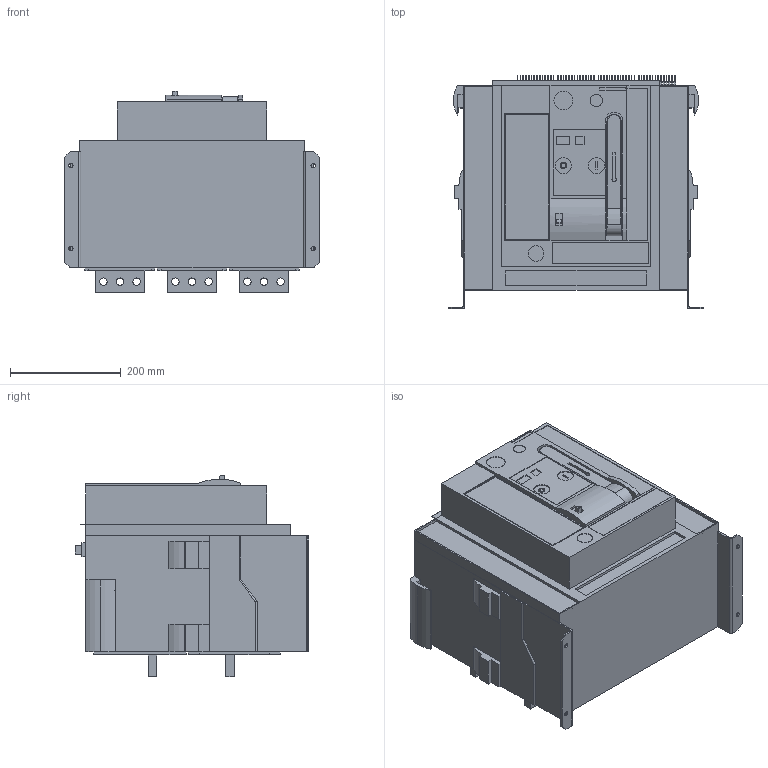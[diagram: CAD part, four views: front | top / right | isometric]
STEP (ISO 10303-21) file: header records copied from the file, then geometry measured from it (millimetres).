
FILE_DESCRIPTION (( 'STEP AP214' ), '1' );
FILE_NAME ('ARION_WL1225-___32.step', '2012-01-11T10:41:08', ( 'Radek Veselý' ), ( 'Siemens and Partners' ), 'SwSTEP 2.0', 'SolidWorks 2006303', '' );
FILE_SCHEMA (( 'AUTOMOTIVE_DESIGN' ));
Length unit declared in the file: millimetre
Products named in the file (1): ARION_WL1225-___32
Bounding box: 460 x 422.4 x 364.16 mm (x, y, z)
Volume: 41932190.3 mm3; surface area: 1151636.2 mm2
Topology: 4 solids, 4 shells, 1249 faces, 3106 edges, 2061 vertices
Faces by surface type: plane 1028, cylinder 217, torus 4
Entity records: 50604 total; most frequent: CARTESIAN_POINT 6465, ORIENTED_EDGE 6212, DIRECTION 6029, EDGE_CURVE 3106, LINE 2667, VECTOR 2667, VERTEX_POINT 2061, AXIS2_PLACEMENT_3D 1681
